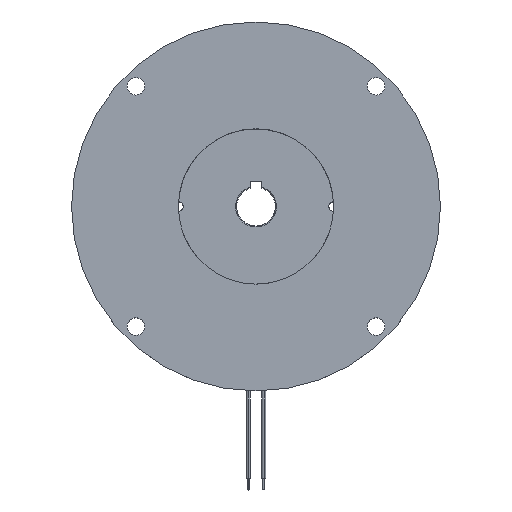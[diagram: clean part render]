
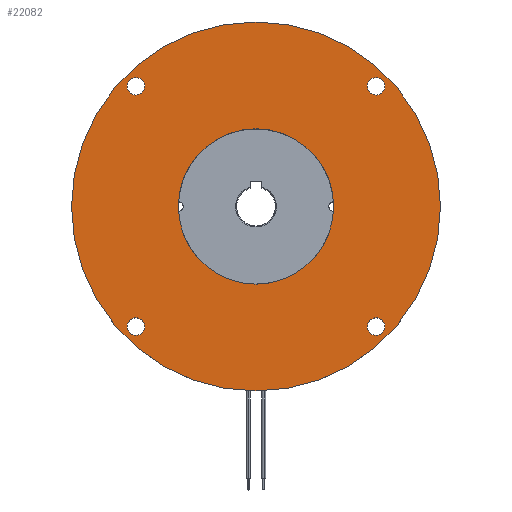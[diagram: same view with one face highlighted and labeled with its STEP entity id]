
A CAD part, top view. The second image highlights one B-rep face of the part: STEP entity #22082.
In plain terms, the highlighted planar face has unit normal (0, 0, 1).
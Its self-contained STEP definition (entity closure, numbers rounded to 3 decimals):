
#19 = ORIENTED_EDGE ( 'NONE', *, *, #2194, .T. ) ;
#287 = CIRCLE ( 'NONE', #12225, 4.5 ) ;
#328 = EDGE_CURVE ( 'NONE', #15124, #12313, #2071, .T. ) ;
#559 = CARTESIAN_POINT ( 'NONE',  ( -40., 0., 0. ) ) ;
#726 = EDGE_CURVE ( 'NONE', #4549, #17482, #22252, .T. ) ;
#801 = CIRCLE ( 'NONE', #15758, 40. ) ;
#932 = VERTEX_POINT ( 'NONE', #3264 ) ;
#1074 = DIRECTION ( 'NONE',  ( -1., 0., 0. ) ) ;
#1176 = CARTESIAN_POINT ( 'NONE',  ( 0., 0., 0. ) ) ;
#1379 = CARTESIAN_POINT ( 'NONE',  ( -66.372, -61.872, 0. ) ) ;
#1589 = CARTESIAN_POINT ( 'NONE',  ( 95., 0., 0. ) ) ;
#1831 = VERTEX_POINT ( 'NONE', #8739 ) ;
#2071 = CIRCLE ( 'NONE', #3557, 4.5 ) ;
#2133 = PLANE ( 'NONE',  #2898 ) ;
#2194 = EDGE_CURVE ( 'NONE', #1831, #932, #21816, .T. ) ;
#2330 = DIRECTION ( 'NONE',  ( -1., 0., 0. ) ) ;
#2481 = CARTESIAN_POINT ( 'NONE',  ( -66.372, 61.872, 0. ) ) ;
#2783 = DIRECTION ( 'NONE',  ( 0., 0., -1. ) ) ;
#2791 = DIRECTION ( 'NONE',  ( -1., 0., 0. ) ) ;
#2797 = ORIENTED_EDGE ( 'NONE', *, *, #21542, .T. ) ;
#2898 = AXIS2_PLACEMENT_3D ( 'NONE', #6058, #8279, #1074 ) ;
#3124 = DIRECTION ( 'NONE',  ( 0., 0., -1. ) ) ;
#3264 = CARTESIAN_POINT ( 'NONE',  ( 66.372, -61.872, 0. ) ) ;
#3398 = ORIENTED_EDGE ( 'NONE', *, *, #9548, .T. ) ;
#3423 = EDGE_CURVE ( 'NONE', #19695, #19424, #6360, .T. ) ;
#3557 = AXIS2_PLACEMENT_3D ( 'NONE', #5858, #21640, #16418 ) ;
#3668 = DIRECTION ( 'NONE',  ( 0., 0., -1. ) ) ;
#3834 = EDGE_CURVE ( 'NONE', #19424, #19695, #801, .T. ) ;
#3933 = EDGE_LOOP ( 'NONE', ( #18019, #14989 ) ) ;
#4137 = AXIS2_PLACEMENT_3D ( 'NONE', #14981, #13107, #22196 ) ;
#4309 = AXIS2_PLACEMENT_3D ( 'NONE', #1176, #6279, #22766 ) ;
#4327 = CARTESIAN_POINT ( 'NONE',  ( -61.872, 61.872, 0. ) ) ;
#4449 = CARTESIAN_POINT ( 'NONE',  ( 66.372, 61.872, 0. ) ) ;
#4549 = VERTEX_POINT ( 'NONE', #10901 ) ;
#4765 = CARTESIAN_POINT ( 'NONE',  ( 61.872, 61.872, 0. ) ) ;
#5210 = CARTESIAN_POINT ( 'NONE',  ( 61.872, -61.872, 0. ) ) ;
#5858 = CARTESIAN_POINT ( 'NONE',  ( 61.872, 61.872, 0. ) ) ;
#6058 = CARTESIAN_POINT ( 'NONE',  ( 0., 95., 0. ) ) ;
#6150 = CARTESIAN_POINT ( 'NONE',  ( 0., 0., 0. ) ) ;
#6231 = ORIENTED_EDGE ( 'NONE', *, *, #13739, .T. ) ;
#6273 = DIRECTION ( 'NONE',  ( -1., 0., 0. ) ) ;
#6279 = DIRECTION ( 'NONE',  ( 0., 0., -1. ) ) ;
#6360 = CIRCLE ( 'NONE', #4137, 40. ) ;
#6409 = CIRCLE ( 'NONE', #7888, 95. ) ;
#6509 = DIRECTION ( 'NONE',  ( 0., 0., -1. ) ) ;
#6731 = ORIENTED_EDGE ( 'NONE', *, *, #17970, .F. ) ;
#7086 = VERTEX_POINT ( 'NONE', #20197 ) ;
#7737 = VERTEX_POINT ( 'NONE', #18166 ) ;
#7886 = ORIENTED_EDGE ( 'NONE', *, *, #22291, .T. ) ;
#7888 = AXIS2_PLACEMENT_3D ( 'NONE', #22300, #2783, #17295 ) ;
#8143 = EDGE_LOOP ( 'NONE', ( #7886, #3398 ) ) ;
#8268 = DIRECTION ( 'NONE',  ( 0., 0., -1. ) ) ;
#8279 = DIRECTION ( 'NONE',  ( 0., 0., -1. ) ) ;
#8739 = CARTESIAN_POINT ( 'NONE',  ( 57.372, -61.872, 0. ) ) ;
#9273 = AXIS2_PLACEMENT_3D ( 'NONE', #10574, #3668, #23065 ) ;
#9369 = VERTEX_POINT ( 'NONE', #1589 ) ;
#9548 = EDGE_CURVE ( 'NONE', #7086, #10703, #19123, .T. ) ;
#9914 = CARTESIAN_POINT ( 'NONE',  ( -61.872, -61.872, 0. ) ) ;
#9921 = CIRCLE ( 'NONE', #4309, 95. ) ;
#10549 = AXIS2_PLACEMENT_3D ( 'NONE', #4327, #18609, #16737 ) ;
#10550 = CARTESIAN_POINT ( 'NONE',  ( -61.872, -61.872, 0. ) ) ;
#10574 = CARTESIAN_POINT ( 'NONE',  ( 61.872, -61.872, 0. ) ) ;
#10703 = VERTEX_POINT ( 'NONE', #2481 ) ;
#10781 = CIRCLE ( 'NONE', #9273, 4.5 ) ;
#10901 = CARTESIAN_POINT ( 'NONE',  ( -57.372, -61.872, 0. ) ) ;
#10999 = FACE_OUTER_BOUND ( 'NONE', #16721, .T. ) ;
#11115 = FACE_BOUND ( 'NONE', #14249, .T. ) ;
#12217 = AXIS2_PLACEMENT_3D ( 'NONE', #9914, #8268, #2791 ) ;
#12225 = AXIS2_PLACEMENT_3D ( 'NONE', #4765, #6509, #17411 ) ;
#12313 = VERTEX_POINT ( 'NONE', #4449 ) ;
#12422 = EDGE_CURVE ( 'NONE', #17482, #4549, #20688, .T. ) ;
#12774 = FACE_BOUND ( 'NONE', #22940, .T. ) ;
#13001 = CIRCLE ( 'NONE', #18221, 4.5 ) ;
#13107 = DIRECTION ( 'NONE',  ( 0., 0., -1. ) ) ;
#13309 = DIRECTION ( 'NONE',  ( 0., 0., -1. ) ) ;
#13739 = EDGE_CURVE ( 'NONE', #932, #1831, #10781, .T. ) ;
#14064 = DIRECTION ( 'NONE',  ( -1., 0., 0. ) ) ;
#14249 = EDGE_LOOP ( 'NONE', ( #14926, #2797 ) ) ;
#14926 = ORIENTED_EDGE ( 'NONE', *, *, #328, .T. ) ;
#14981 = CARTESIAN_POINT ( 'NONE',  ( 0., 0., 0. ) ) ;
#14989 = ORIENTED_EDGE ( 'NONE', *, *, #3834, .T. ) ;
#15053 = EDGE_LOOP ( 'NONE', ( #19, #6231 ) ) ;
#15124 = VERTEX_POINT ( 'NONE', #22697 ) ;
#15758 = AXIS2_PLACEMENT_3D ( 'NONE', #6150, #13309, #6273 ) ;
#16418 = DIRECTION ( 'NONE',  ( -1., 0., 0. ) ) ;
#16721 = EDGE_LOOP ( 'NONE', ( #22833, #6731 ) ) ;
#16737 = DIRECTION ( 'NONE',  ( -1., 0., 0. ) ) ;
#17295 = DIRECTION ( 'NONE',  ( -1., 0., 0. ) ) ;
#17411 = DIRECTION ( 'NONE',  ( -1., 0., 0. ) ) ;
#17482 = VERTEX_POINT ( 'NONE', #1379 ) ;
#17970 = EDGE_CURVE ( 'NONE', #9369, #7737, #6409, .T. ) ;
#18019 = ORIENTED_EDGE ( 'NONE', *, *, #3423, .T. ) ;
#18081 = AXIS2_PLACEMENT_3D ( 'NONE', #10550, #19554, #14064 ) ;
#18166 = CARTESIAN_POINT ( 'NONE',  ( -95., 0., 0. ) ) ;
#18221 = AXIS2_PLACEMENT_3D ( 'NONE', #18345, #21713, #2330 ) ;
#18260 = FACE_BOUND ( 'NONE', #3933, .T. ) ;
#18345 = CARTESIAN_POINT ( 'NONE',  ( -61.872, 61.872, 0. ) ) ;
#18490 = AXIS2_PLACEMENT_3D ( 'NONE', #5210, #3124, #22752 ) ;
#18609 = DIRECTION ( 'NONE',  ( 0., 0., -1. ) ) ;
#19123 = CIRCLE ( 'NONE', #10549, 4.5 ) ;
#19424 = VERTEX_POINT ( 'NONE', #23050 ) ;
#19554 = DIRECTION ( 'NONE',  ( 0., 0., -1. ) ) ;
#19695 = VERTEX_POINT ( 'NONE', #559 ) ;
#19889 = FACE_BOUND ( 'NONE', #8143, .T. ) ;
#20197 = CARTESIAN_POINT ( 'NONE',  ( -57.372, 61.872, 0. ) ) ;
#20305 = ORIENTED_EDGE ( 'NONE', *, *, #726, .T. ) ;
#20633 = EDGE_CURVE ( 'NONE', #7737, #9369, #9921, .T. ) ;
#20637 = ORIENTED_EDGE ( 'NONE', *, *, #12422, .T. ) ;
#20688 = CIRCLE ( 'NONE', #18081, 4.5 ) ;
#21542 = EDGE_CURVE ( 'NONE', #12313, #15124, #287, .T. ) ;
#21623 = FACE_BOUND ( 'NONE', #15053, .T. ) ;
#21640 = DIRECTION ( 'NONE',  ( 0., 0., -1. ) ) ;
#21713 = DIRECTION ( 'NONE',  ( 0., 0., -1. ) ) ;
#21816 = CIRCLE ( 'NONE', #18490, 4.5 ) ;
#22082 = ADVANCED_FACE ( 'NONE', ( #11115, #21623, #12774, #19889, #10999, #18260 ), #2133, .F. ) ;
#22196 = DIRECTION ( 'NONE',  ( -1., 0., 0. ) ) ;
#22252 = CIRCLE ( 'NONE', #12217, 4.5 ) ;
#22291 = EDGE_CURVE ( 'NONE', #10703, #7086, #13001, .T. ) ;
#22300 = CARTESIAN_POINT ( 'NONE',  ( 0., 0., 0. ) ) ;
#22697 = CARTESIAN_POINT ( 'NONE',  ( 57.372, 61.872, 0. ) ) ;
#22752 = DIRECTION ( 'NONE',  ( -1., 0., 0. ) ) ;
#22766 = DIRECTION ( 'NONE',  ( -1., 0., 0. ) ) ;
#22833 = ORIENTED_EDGE ( 'NONE', *, *, #20633, .F. ) ;
#22940 = EDGE_LOOP ( 'NONE', ( #20637, #20305 ) ) ;
#23050 = CARTESIAN_POINT ( 'NONE',  ( 40., 0., 0. ) ) ;
#23065 = DIRECTION ( 'NONE',  ( -1., 0., 0. ) ) ;
